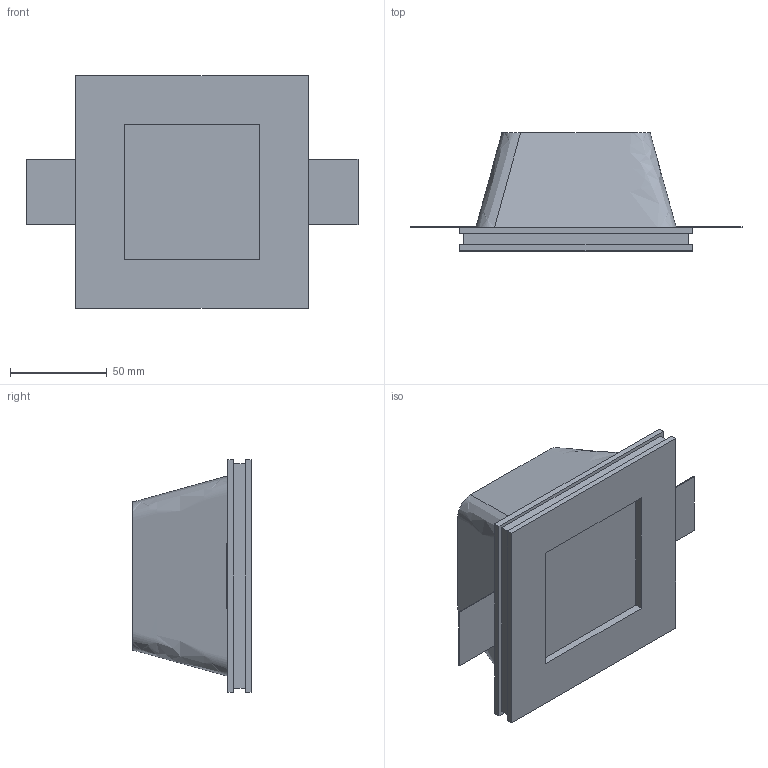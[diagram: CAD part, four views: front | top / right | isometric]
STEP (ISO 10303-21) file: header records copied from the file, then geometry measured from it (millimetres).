
FILE_DESCRIPTION (( 'STEP AP214' ), '1' );
FILE_NAME ('GHOST SMALL 3D MODEL.STEP', '2016-10-20T12:57:42', ( 'Utente' ), ( '' ), 'SwSTEP 2.0', 'SolidWorks 2016', '' );
FILE_SCHEMA (( 'AUTOMOTIVE_DESIGN' ));
Length unit declared in the file: millimetre
Products named in the file (1): GHOST SMALL 3D MODEL
Bounding box: 171.5 x 61 x 120 mm (x, y, z)
Volume: 516760.2 mm3; surface area: 55552.4 mm2
Topology: 1 solids, 1 shells, 40 faces, 106 edges, 72 vertices
Faces by surface type: plane 36, cylinder 2, bspline 2
Entity records: 1737 total; most frequent: CARTESIAN_POINT 583, ORIENTED_EDGE 212, DIRECTION 178, EDGE_CURVE 106, VECTOR 92, LINE 92, VERTEX_POINT 72, EDGE_LOOP 44
